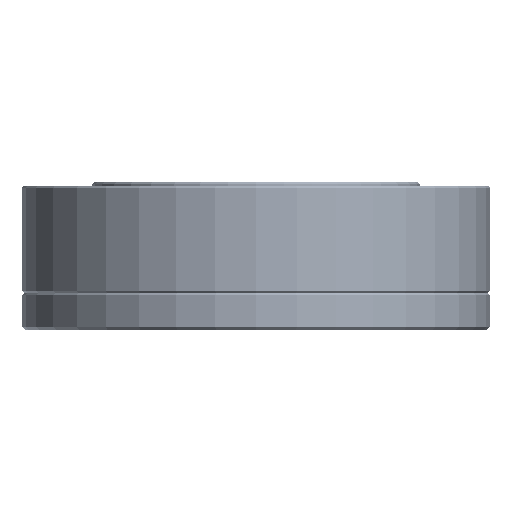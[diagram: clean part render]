
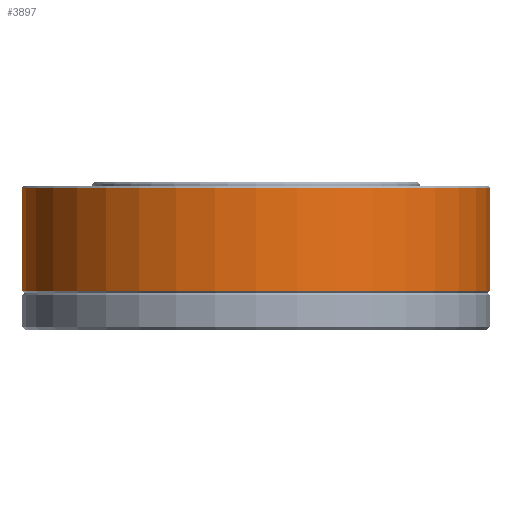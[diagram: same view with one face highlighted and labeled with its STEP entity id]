
A CAD part, front view. The second image highlights one B-rep face of the part: STEP entity #3897.
In plain terms, the highlighted cylindrical face has radius 35 mm (diameter 70 mm), a full revolution.
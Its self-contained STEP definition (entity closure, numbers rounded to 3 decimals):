
#3897=ADVANCED_FACE('',(#4788,#4789),#4600,.T.);
#4600=CYLINDRICAL_SURFACE('',#12478,35.);
#4788=FACE_BOUND('',#5482,.T.);
#4789=FACE_BOUND('',#5483,.T.);
#5482=EDGE_LOOP('',(#6528));
#5483=EDGE_LOOP('',(#6529));
#6528=ORIENTED_EDGE('',*,*,#10458,.T.);
#6529=ORIENTED_EDGE('',*,*,#10459,.T.);
#9380=VERTEX_POINT('',#16501);
#9381=VERTEX_POINT('',#16503);
#10458=EDGE_CURVE('',#9380,#9380,#11884,.T.);
#10459=EDGE_CURVE('',#9381,#9381,#11885,.T.);
#11884=CIRCLE('',#12476,35.);
#11885=CIRCLE('',#12477,35.);
#12476=AXIS2_PLACEMENT_3D('',#16500,#13692,#13693);
#12477=AXIS2_PLACEMENT_3D('',#16502,#13694,#13695);
#12478=AXIS2_PLACEMENT_3D('',#16504,#13696,#13697);
#13692=DIRECTION('',(0.,0.,-1.));
#13693=DIRECTION('',(1.,0.,0.));
#13694=DIRECTION('',(0.,0.,1.));
#13695=DIRECTION('',(1.,0.,0.));
#13696=DIRECTION('',(0.,0.,1.));
#13697=DIRECTION('',(1.,0.,0.));
#16500=CARTESIAN_POINT('',(0.,0.,-0.3));
#16501=CARTESIAN_POINT('',(35.,0.,-0.3));
#16502=CARTESIAN_POINT('',(0.,0.,-15.7));
#16503=CARTESIAN_POINT('',(35.,0.,-15.7));
#16504=CARTESIAN_POINT('',(0.,0.,-16.));
